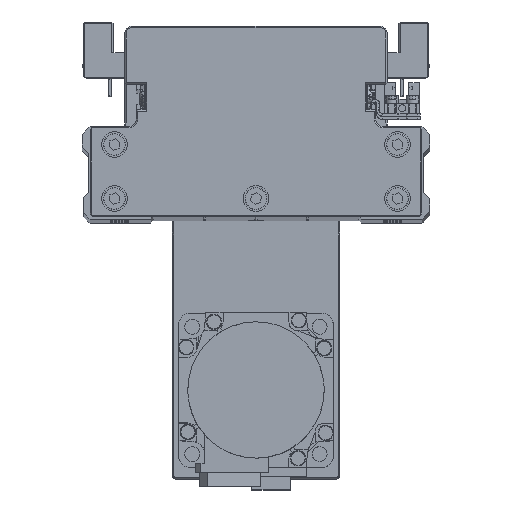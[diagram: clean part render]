
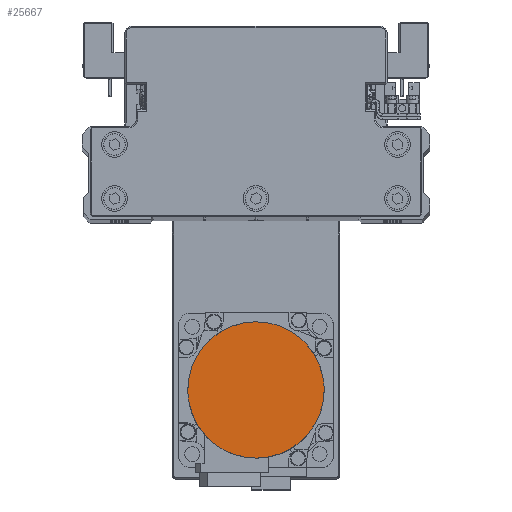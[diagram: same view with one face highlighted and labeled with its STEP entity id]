
A CAD part, top view. The second image highlights one B-rep face of the part: STEP entity #25667.
In plain terms, the highlighted planar face has unit normal (0, 0, 1) as drawn and (0, 0, -1) by its records, which use the part's own axes.
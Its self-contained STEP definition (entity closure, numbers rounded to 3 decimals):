
#336 = CARTESIAN_POINT ( 'NONE',  ( 21.07, 16.165, -109.7 ) ) ;
#551 = CARTESIAN_POINT ( 'NONE',  ( -8.539, 25.147, -109.7 ) ) ;
#743 = CARTESIAN_POINT ( 'NONE',  ( -26.5, 0., -109.7 ) ) ;
#1142 = FACE_OUTER_BOUND ( 'NONE', #21851, .T. ) ;
#2760 = CARTESIAN_POINT ( 'NONE',  ( -21.07, -16.165, -109.7 ) ) ;
#2962 = CARTESIAN_POINT ( 'NONE',  ( 8.539, -25.147, -109.7 ) ) ;
#3170 = CARTESIAN_POINT ( 'NONE',  ( 26.5, 0., -109.7 ) ) ;
#3424 = CARTESIAN_POINT ( 'NONE',  ( 25.147, 8.539, -109.7 ) ) ;
#3625 = CARTESIAN_POINT ( 'NONE',  ( -1.734, 26.5, -109.7 ) ) ;
#3835 = CARTESIAN_POINT ( 'NONE',  ( -25.652, 6.871, -109.7 ) ) ;
#4317 = VERTEX_POINT ( 'NONE', #39481 ) ;
#5863 = CARTESIAN_POINT ( 'NONE',  ( -25.147, -8.539, -109.7 ) ) ;
#6046 = CARTESIAN_POINT ( 'NONE',  ( 1.734, -26.5, -109.7 ) ) ;
#6240 = CARTESIAN_POINT ( 'NONE',  ( 25.652, -6.871, -109.7 ) ) ;
#6375 = B_SPLINE_CURVE_WITH_KNOTS ( 'NONE', 3,
 ( #34670, #6507, #19030, #31591, #3424, #15933, #28499, #336, #12862, #25418, #37946, #9802, #22324, #34864, #6702, #19222, #31788, #3625, #16139, #28704, #551, #13066, #25615, #38143, #9990, #22526, #35062, #6911, #19438, #31996, #3835, #16353, #28905, #743 ),
 .UNSPECIFIED., .F., .F.,
 ( 4, 2, 2, 2, 2, 2, 2, 2, 2, 2, 2, 2, 2, 2, 2, 2, 4 ),
 ( 0., 0.062, 0.125, 0.187, 0.25, 0.312, 0.375, 0.437, 0.5, 0.562, 0.625, 0.687, 0.75, 0.813, 0.875, 0.938, 1. ),
 .UNSPECIFIED. ) ;
#6507 = CARTESIAN_POINT ( 'NONE',  ( 26.5, 1.734, -109.7 ) ) ;
#6702 = CARTESIAN_POINT ( 'NONE',  ( 6.871, 25.652, -109.7 ) ) ;
#6911 = CARTESIAN_POINT ( 'NONE',  ( -22.998, 13.28, -109.7 ) ) ;
#8930 = CARTESIAN_POINT ( 'NONE',  ( -26.5, -1.734, -109.7 ) ) ;
#9134 = CARTESIAN_POINT ( 'NONE',  ( -6.871, -25.652, -109.7 ) ) ;
#9324 = CARTESIAN_POINT ( 'NONE',  ( 22.998, -13.28, -109.7 ) ) ;
#9802 = CARTESIAN_POINT ( 'NONE',  ( 13.28, 22.998, -109.7 ) ) ;
#9990 = CARTESIAN_POINT ( 'NONE',  ( -17.512, 19.965, -109.7 ) ) ;
#10575 = DIRECTION ( 'NONE',  ( 1., 0., 0. ) ) ;
#12203 = CARTESIAN_POINT ( 'NONE',  ( -13.28, -22.998, -109.7 ) ) ;
#12401 = CARTESIAN_POINT ( 'NONE',  ( 17.512, -19.965, -109.7 ) ) ;
#12533 = ORIENTED_EDGE ( 'NONE', *, *, #39682, .F. ) ;
#12862 = CARTESIAN_POINT ( 'NONE',  ( 19.965, 17.512, -109.7 ) ) ;
#13066 = CARTESIAN_POINT ( 'NONE',  ( -11.744, 23.819, -109.7 ) ) ;
#13665 = PLANE ( 'NONE',  #25998 ) ;
#15268 = CARTESIAN_POINT ( 'NONE',  ( -19.965, -17.512, -109.7 ) ) ;
#15474 = CARTESIAN_POINT ( 'NONE',  ( 11.744, -23.819, -109.7 ) ) ;
#15933 = CARTESIAN_POINT ( 'NONE',  ( 23.819, 11.744, -109.7 ) ) ;
#16139 = CARTESIAN_POINT ( 'NONE',  ( -3.469, 26.329, -109.7 ) ) ;
#16353 = CARTESIAN_POINT ( 'NONE',  ( -26.329, 3.469, -109.7 ) ) ;
#17513 = CARTESIAN_POINT ( 'NONE',  ( -26.5, 0., -109.7 ) ) ;
#17823 = EDGE_CURVE ( 'NONE', #4317, #27469, #6375, .T. ) ;
#18372 = CARTESIAN_POINT ( 'NONE',  ( -23.819, -11.744, -109.7 ) ) ;
#18567 = CARTESIAN_POINT ( 'NONE',  ( 3.469, -26.329, -109.7 ) ) ;
#18774 = CARTESIAN_POINT ( 'NONE',  ( 26.329, -3.469, -109.7 ) ) ;
#19030 = CARTESIAN_POINT ( 'NONE',  ( 26.329, 3.469, -109.7 ) ) ;
#19222 = CARTESIAN_POINT ( 'NONE',  ( 3.469, 26.329, -109.7 ) ) ;
#19438 = CARTESIAN_POINT ( 'NONE',  ( -23.819, 11.744, -109.7 ) ) ;
#21465 = CARTESIAN_POINT ( 'NONE',  ( -26.329, -3.469, -109.7 ) ) ;
#21666 = CARTESIAN_POINT ( 'NONE',  ( -3.469, -26.329, -109.7 ) ) ;
#21851 = EDGE_LOOP ( 'NONE', ( #28928, #12533 ) ) ;
#21854 = CARTESIAN_POINT ( 'NONE',  ( 23.819, -11.744, -109.7 ) ) ;
#22324 = CARTESIAN_POINT ( 'NONE',  ( 11.744, 23.819, -109.7 ) ) ;
#22526 = CARTESIAN_POINT ( 'NONE',  ( -19.965, 17.512, -109.7 ) ) ;
#24758 = CARTESIAN_POINT ( 'NONE',  ( -11.744, -23.819, -109.7 ) ) ;
#24951 = CARTESIAN_POINT ( 'NONE',  ( 19.965, -17.512, -109.7 ) ) ;
#25418 = CARTESIAN_POINT ( 'NONE',  ( 17.512, 19.965, -109.7 ) ) ;
#25615 = CARTESIAN_POINT ( 'NONE',  ( -13.28, 22.998, -109.7 ) ) ;
#25667 = ADVANCED_FACE ( 'NONE', ( #1142 ), #13665, .F. ) ;
#25998 = AXIS2_PLACEMENT_3D ( 'NONE', #26221, #38746, #10575 ) ;
#26221 = CARTESIAN_POINT ( 'NONE',  ( 0., 0., -109.7 ) ) ;
#27469 = VERTEX_POINT ( 'NONE', #17513 ) ;
#27840 = CARTESIAN_POINT ( 'NONE',  ( -17.512, -19.965, -109.7 ) ) ;
#28047 = CARTESIAN_POINT ( 'NONE',  ( 13.28, -22.998, -109.7 ) ) ;
#28499 = CARTESIAN_POINT ( 'NONE',  ( 22.998, 13.28, -109.7 ) ) ;
#28704 = CARTESIAN_POINT ( 'NONE',  ( -6.871, 25.652, -109.7 ) ) ;
#28905 = CARTESIAN_POINT ( 'NONE',  ( -26.5, 1.734, -109.7 ) ) ;
#28928 = ORIENTED_EDGE ( 'NONE', *, *, #17823, .F. ) ;
#30929 = CARTESIAN_POINT ( 'NONE',  ( -22.998, -13.28, -109.7 ) ) ;
#31122 = CARTESIAN_POINT ( 'NONE',  ( 6.871, -25.652, -109.7 ) ) ;
#31334 = CARTESIAN_POINT ( 'NONE',  ( 26.5, -1.734, -109.7 ) ) ;
#31591 = CARTESIAN_POINT ( 'NONE',  ( 25.652, 6.871, -109.7 ) ) ;
#31788 = CARTESIAN_POINT ( 'NONE',  ( 1.734, 26.5, -109.7 ) ) ;
#31996 = CARTESIAN_POINT ( 'NONE',  ( -25.147, 8.539, -109.7 ) ) ;
#33669 = B_SPLINE_CURVE_WITH_KNOTS ( 'NONE', 3,
 ( #37076, #8930, #21465, #34012, #5863, #18372, #30929, #2760, #15268, #27840, #40366, #12203, #24758, #37294, #9134, #21666, #34202, #6046, #18567, #31122, #2962, #15474, #28047, #40574, #12401, #24951, #37477, #9324, #21854, #34396, #6240, #18774, #31334, #3170 ),
 .UNSPECIFIED., .F., .F.,
 ( 4, 2, 2, 2, 2, 2, 2, 2, 2, 2, 2, 2, 2, 2, 2, 2, 4 ),
 ( 0., 0.063, 0.125, 0.188, 0.25, 0.312, 0.375, 0.437, 0.5, 0.562, 0.625, 0.687, 0.75, 0.813, 0.875, 0.938, 1. ),
 .UNSPECIFIED. ) ;
#34012 = CARTESIAN_POINT ( 'NONE',  ( -25.652, -6.871, -109.7 ) ) ;
#34202 = CARTESIAN_POINT ( 'NONE',  ( -1.734, -26.5, -109.7 ) ) ;
#34396 = CARTESIAN_POINT ( 'NONE',  ( 25.147, -8.539, -109.7 ) ) ;
#34670 = CARTESIAN_POINT ( 'NONE',  ( 26.5, 0., -109.7 ) ) ;
#34864 = CARTESIAN_POINT ( 'NONE',  ( 8.539, 25.147, -109.7 ) ) ;
#35062 = CARTESIAN_POINT ( 'NONE',  ( -21.07, 16.165, -109.7 ) ) ;
#37076 = CARTESIAN_POINT ( 'NONE',  ( -26.5, 0., -109.7 ) ) ;
#37294 = CARTESIAN_POINT ( 'NONE',  ( -8.539, -25.147, -109.7 ) ) ;
#37477 = CARTESIAN_POINT ( 'NONE',  ( 21.07, -16.165, -109.7 ) ) ;
#37946 = CARTESIAN_POINT ( 'NONE',  ( 16.165, 21.07, -109.7 ) ) ;
#38143 = CARTESIAN_POINT ( 'NONE',  ( -16.165, 21.07, -109.7 ) ) ;
#38746 = DIRECTION ( 'NONE',  ( 0., 0., 1. ) ) ;
#39481 = CARTESIAN_POINT ( 'NONE',  ( 26.5, 0., -109.7 ) ) ;
#39682 = EDGE_CURVE ( 'NONE', #27469, #4317, #33669, .T. ) ;
#40366 = CARTESIAN_POINT ( 'NONE',  ( -16.165, -21.07, -109.7 ) ) ;
#40574 = CARTESIAN_POINT ( 'NONE',  ( 16.165, -21.07, -109.7 ) ) ;
